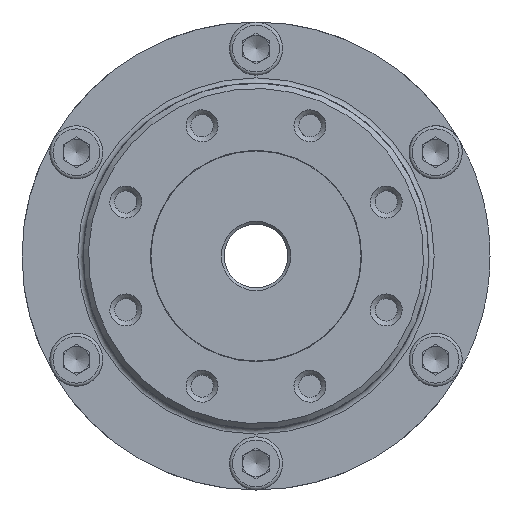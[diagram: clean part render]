
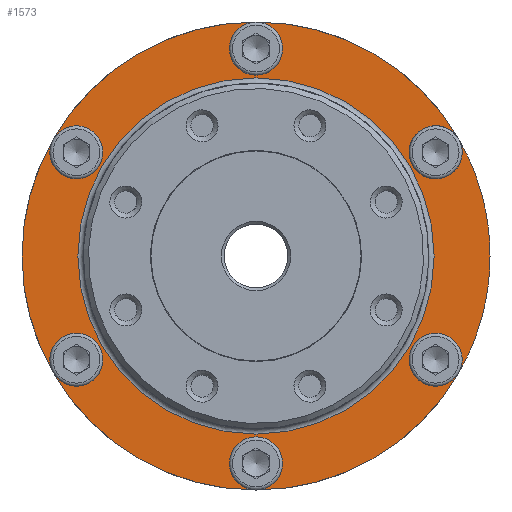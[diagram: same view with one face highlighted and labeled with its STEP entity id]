
A CAD part, left-side view. The second image highlights one B-rep face of the part: STEP entity #1573.
In plain terms, the highlighted planar face has unit normal (-1, 0, 0).
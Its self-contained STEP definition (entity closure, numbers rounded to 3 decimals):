
#1573 = ADVANCED_FACE( '', ( #3793, #3794 ), #3795, .F. );
#3793 = FACE_OUTER_BOUND( '', #6719, .T. );
#3794 = FACE_BOUND( '', #6720, .T. );
#3795 = PLANE( '', #6721 );
#6719 = EDGE_LOOP( '', ( #11325, #11326, #11327, #11328, #11329, #11330, #11331, #11332, #11333, #11334, #11335, #11336 ) );
#6720 = EDGE_LOOP( '', ( #11337 ) );
#6721 = AXIS2_PLACEMENT_3D( '', #11338, #11339, #11340 );
#11325 = ORIENTED_EDGE( '', *, *, #16057, .T. );
#11326 = ORIENTED_EDGE( '', *, *, #16702, .F. );
#11327 = ORIENTED_EDGE( '', *, *, #16056, .T. );
#11328 = ORIENTED_EDGE( '', *, *, #16402, .F. );
#11329 = ORIENTED_EDGE( '', *, *, #16055, .T. );
#11330 = ORIENTED_EDGE( '', *, *, #15822, .F. );
#11331 = ORIENTED_EDGE( '', *, *, #16060, .T. );
#11332 = ORIENTED_EDGE( '', *, *, #16703, .F. );
#11333 = ORIENTED_EDGE( '', *, *, #16059, .T. );
#11334 = ORIENTED_EDGE( '', *, *, #16163, .F. );
#11335 = ORIENTED_EDGE( '', *, *, #16058, .T. );
#11336 = ORIENTED_EDGE( '', *, *, #15349, .F. );
#11337 = ORIENTED_EDGE( '', *, *, #16435, .F. );
#11338 = CARTESIAN_POINT( '', ( -3.05, 0., 44. ) );
#11339 = DIRECTION( '', ( 1., 0., 0. ) );
#11340 = DIRECTION( '', ( 0., 1., 0. ) );
#15349 = EDGE_CURVE( '', #18098, #18098, #18099, .T. );
#15822 = EDGE_CURVE( '', #18899, #18899, #18900, .T. );
#16055 = EDGE_CURVE( '', #19275, #18899, #19276, .T. );
#16056 = EDGE_CURVE( '', #19277, #19275, #19278, .T. );
#16057 = EDGE_CURVE( '', #18098, #19277, #19279, .T. );
#16058 = EDGE_CURVE( '', #19280, #18098, #19281, .T. );
#16059 = EDGE_CURVE( '', #19282, #19280, #19283, .T. );
#16060 = EDGE_CURVE( '', #18899, #19282, #19284, .T. );
#16163 = EDGE_CURVE( '', #19280, #19280, #19445, .T. );
#16402 = EDGE_CURVE( '', #19275, #19275, #19813, .T. );
#16435 = EDGE_CURVE( '', #19861, #19861, #19862, .T. );
#16702 = EDGE_CURVE( '', #19277, #19277, #20235, .T. );
#16703 = EDGE_CURVE( '', #19282, #19282, #20236, .T. );
#18098 = VERTEX_POINT( '', #22252 );
#18099 = CIRCLE( '', #22253, 5. );
#18899 = VERTEX_POINT( '', #23999 );
#18900 = CIRCLE( '', #24000, 5. );
#19275 = VERTEX_POINT( '', #24683 );
#19276 = CIRCLE( '', #24684, 44. );
#19277 = VERTEX_POINT( '', #24685 );
#19278 = CIRCLE( '', #24686, 44. );
#19279 = CIRCLE( '', #24687, 44. );
#19280 = VERTEX_POINT( '', #24688 );
#19281 = CIRCLE( '', #24689, 44. );
#19282 = VERTEX_POINT( '', #24690 );
#19283 = CIRCLE( '', #24691, 44. );
#19284 = CIRCLE( '', #24692, 44. );
#19445 = CIRCLE( '', #24994, 5. );
#19813 = CIRCLE( '', #25891, 5. );
#19861 = VERTEX_POINT( '', #25979 );
#19862 = CIRCLE( '', #25980, 33.5 );
#20235 = CIRCLE( '', #26581, 5. );
#20236 = CIRCLE( '', #26582, 5. );
#22252 = CARTESIAN_POINT( '', ( -3.05, -38.105, -22. ) );
#22253 = AXIS2_PLACEMENT_3D( '', #28805, #28806, #28807 );
#23999 = CARTESIAN_POINT( '', ( -3.05, 38.105, 22. ) );
#24000 = AXIS2_PLACEMENT_3D( '', #29439, #29440, #29441 );
#24683 = CARTESIAN_POINT( '', ( -3.05, 0., 44. ) );
#24684 = AXIS2_PLACEMENT_3D( '', #29746, #29747, #29748 );
#24685 = CARTESIAN_POINT( '', ( -3.05, -38.105, 22. ) );
#24686 = AXIS2_PLACEMENT_3D( '', #29749, #29750, #29751 );
#24687 = AXIS2_PLACEMENT_3D( '', #29752, #29753, #29754 );
#24688 = CARTESIAN_POINT( '', ( -3.05, 0., -44. ) );
#24689 = AXIS2_PLACEMENT_3D( '', #29755, #29756, #29757 );
#24690 = CARTESIAN_POINT( '', ( -3.05, 38.105, -22. ) );
#24691 = AXIS2_PLACEMENT_3D( '', #29758, #29759, #29760 );
#24692 = AXIS2_PLACEMENT_3D( '', #29761, #29762, #29763 );
#24994 = AXIS2_PLACEMENT_3D( '', #29869, #29870, #29871 );
#25891 = AXIS2_PLACEMENT_3D( '', #30172, #30173, #30174 );
#25979 = CARTESIAN_POINT( '', ( -3.05, 0., 33.5 ) );
#25980 = AXIS2_PLACEMENT_3D( '', #30213, #30214, #30215 );
#26581 = AXIS2_PLACEMENT_3D( '', #30553, #30554, #30555 );
#26582 = AXIS2_PLACEMENT_3D( '', #30556, #30557, #30558 );
#28805 = CARTESIAN_POINT( '', ( -3.05, -33.775, -19.5 ) );
#28806 = DIRECTION( '', ( -1., 0., 0. ) );
#28807 = DIRECTION( '', ( 0., -0.866, -0.5 ) );
#29439 = CARTESIAN_POINT( '', ( -3.05, 33.775, 19.5 ) );
#29440 = DIRECTION( '', ( -1., 0., 0. ) );
#29441 = DIRECTION( '', ( 0., 0.866, 0.5 ) );
#29746 = CARTESIAN_POINT( '', ( -3.05, 0., 0. ) );
#29747 = DIRECTION( '', ( -1., 0., 0. ) );
#29748 = DIRECTION( '', ( 0., 0., -1. ) );
#29749 = CARTESIAN_POINT( '', ( -3.05, 0., 0. ) );
#29750 = DIRECTION( '', ( -1., 0., 0. ) );
#29751 = DIRECTION( '', ( 0., 0., -1. ) );
#29752 = CARTESIAN_POINT( '', ( -3.05, 0., 0. ) );
#29753 = DIRECTION( '', ( -1., 0., 0. ) );
#29754 = DIRECTION( '', ( 0., 0., -1. ) );
#29755 = CARTESIAN_POINT( '', ( -3.05, 0., 0. ) );
#29756 = DIRECTION( '', ( -1., 0., 0. ) );
#29757 = DIRECTION( '', ( 0., 0., -1. ) );
#29758 = CARTESIAN_POINT( '', ( -3.05, 0., 0. ) );
#29759 = DIRECTION( '', ( -1., 0., 0. ) );
#29760 = DIRECTION( '', ( 0., 0., -1. ) );
#29761 = CARTESIAN_POINT( '', ( -3.05, 0., 0. ) );
#29762 = DIRECTION( '', ( -1., 0., 0. ) );
#29763 = DIRECTION( '', ( 0., 0., -1. ) );
#29869 = CARTESIAN_POINT( '', ( -3.05, 0., -39. ) );
#29870 = DIRECTION( '', ( -1., 0., 0. ) );
#29871 = DIRECTION( '', ( 0., 0., -1. ) );
#30172 = CARTESIAN_POINT( '', ( -3.05, 0., 39. ) );
#30173 = DIRECTION( '', ( -1., 0., 0. ) );
#30174 = DIRECTION( '', ( 0., 0., 1. ) );
#30213 = CARTESIAN_POINT( '', ( -3.05, 0., 0. ) );
#30214 = DIRECTION( '', ( -1., 0., 0. ) );
#30215 = DIRECTION( '', ( 0., 0., 1. ) );
#30553 = CARTESIAN_POINT( '', ( -3.05, -33.775, 19.5 ) );
#30554 = DIRECTION( '', ( -1., 0., 0. ) );
#30555 = DIRECTION( '', ( 0., -0.866, 0.5 ) );
#30556 = CARTESIAN_POINT( '', ( -3.05, 33.775, -19.5 ) );
#30557 = DIRECTION( '', ( -1., 0., 0. ) );
#30558 = DIRECTION( '', ( 0., 0.866, -0.5 ) );
